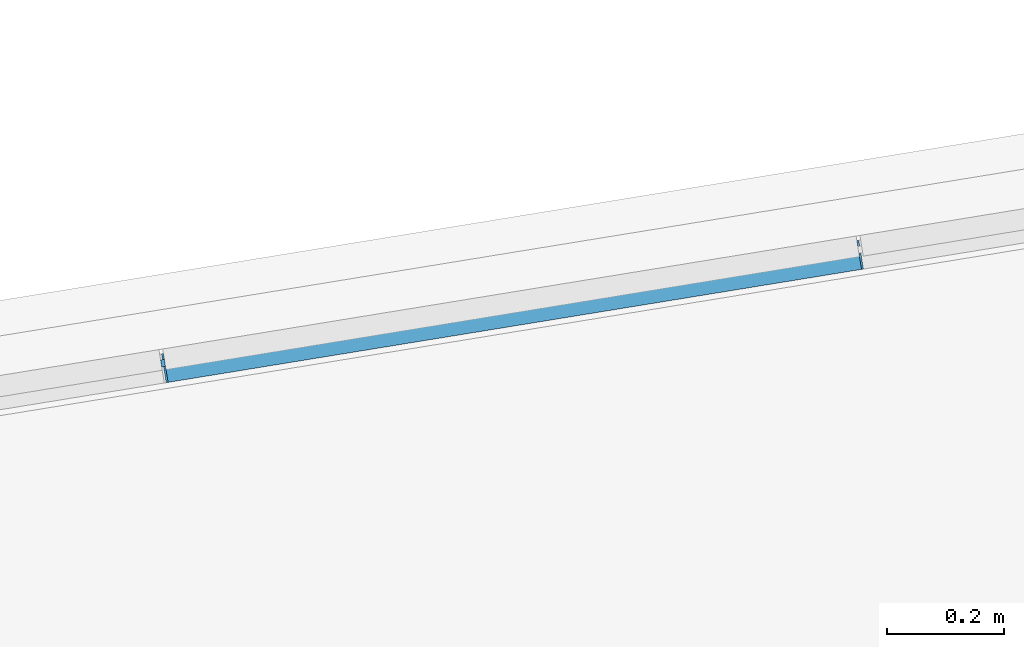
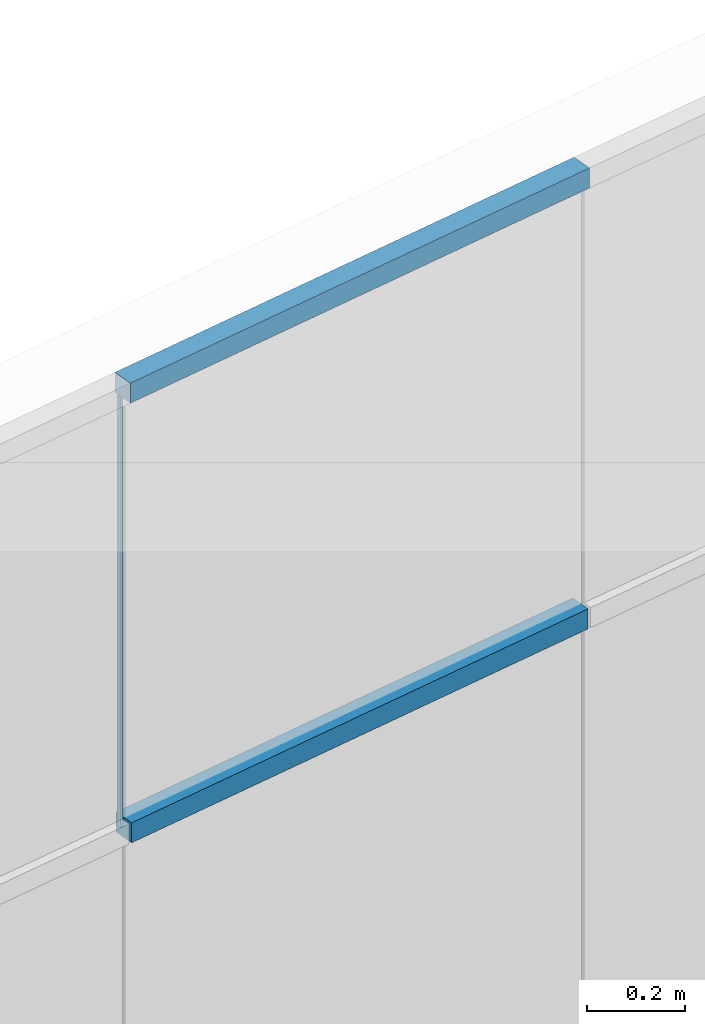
# One storey, part 5 of 13: 3 members, 1 element without a shape of its own.
"""IFC2X3 building model written with IfcOpenShell, lengths in millimetres."""

from ifc_helpers import new_model, entity, si_unit, converted_unit, derived_unit, direction, frame, origin, origin_with_axes, origin_2d_with_axis, place, context, subcontext, project, spatial, rectangle, extrude, source, transform, mapped, material, type_object, element, aggregate, save


model = new_model("IFC2X3")

# Units and contexts
plan_context = context("Plan", 3, precision=1e-05, world=origin_with_axes())
model_context = context("Model", 3, precision=0.01, world=origin(), true_north=direction((6.12323399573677e-17, 1.0)))
body_context = subcontext(model_context, "Body", "Model", "MODEL_VIEW")
ifc_project = project(units=[converted_unit("PLANEANGLEUNIT", "DEGREE", entity("IfcPositiveLengthMeasure", 0.0174532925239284), si_unit("PLANEANGLEUNIT", "RADIAN"), dimensions=[0, 0, 0, 0, 0, 0, 0]), si_unit("AREAUNIT", "SQUARE_METRE"), si_unit("LENGTHUNIT", "METRE", prefix="MILLI"), si_unit("MASSUNIT", "GRAM", prefix="KILO"), si_unit("POWERUNIT", "WATT"), si_unit("PRESSUREUNIT", "PASCAL", prefix="KILO"), si_unit("FORCEUNIT", "NEWTON", prefix="KILO"), si_unit("ELECTRICVOLTAGEUNIT", "VOLT"), si_unit("ELECTRICCURRENTUNIT", "AMPERE"), si_unit("THERMODYNAMICTEMPERATUREUNIT", "DEGREE_CELSIUS"), si_unit("TIMEUNIT", "SECOND"), si_unit("VOLUMEUNIT", "CUBIC_METRE"), derived_unit("LINEARVELOCITYUNIT", [(si_unit("LENGTHUNIT", "METRE"), 1), (si_unit("TIMEUNIT", "SECOND"), -1)]), derived_unit("VOLUMETRICFLOWRATEUNIT", [(si_unit("VOLUMEUNIT", "CUBIC_METRE"), 1), (si_unit("TIMEUNIT", "SECOND"), -1)]), derived_unit("THERMALTRANSMITTANCEUNIT", [(si_unit("POWERUNIT", "WATT"), 1), (si_unit("THERMODYNAMICTEMPERATUREUNIT", "KELVIN"), -1), (si_unit("AREAUNIT", "SQUARE_METRE"), -1)]), derived_unit("SOUNDPRESSUREUNIT", [(si_unit("PRESSUREUNIT", "PASCAL"), 1)])], contexts=[model_context, plan_context])

# Site, building, storey
site_placement = place(None, frame((-305029.896016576, -232111.759730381, 0.0), z_axis=(0.0, 0.0, 1.0), x_axis=(-0.160806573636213, 0.986985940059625, 0.0)))
site = spatial("IfcSite", under=ifc_project, at=site_placement, Name="Default", CompositionType="ELEMENT")
building_placement = place(site_placement, frame((0.0, 0.0, 0.0), z_axis=(0.0, 0.0, 1.0), x_axis=(1.0, -2.77555756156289e-17, 0.0)))
building = spatial("IfcBuilding", under=site, at=building_placement, Name="br001-a-200-1-0001", CompositionType="ELEMENT")
storey_placement = place(building_placement, frame((0.0, 0.0, 51360.0000000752), z_axis=(0.0, 0.0, 1.0), x_axis=(1.0, -2.77555756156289e-17, 0.0)))
storey = spatial("IfcBuildingStorey", under=building, at=storey_placement, Name="H01-Nivå D+0,36", CompositionType="ELEMENT", Elevation=51360.0000000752)

# Curtain wall, members
curtain_wall_type = type_object("IfcCurtainWallType", Name="Curtain Wall:A243 Innvendig glassvegg", PredefinedType="NOTDEFINED")
curtain_wall_placement = place(storey_placement, frame((0.0, 0.0, -51360.0000000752), z_axis=(0.0, 0.0, 1.0), x_axis=(1.0, -2.77555756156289e-17, 0.0)))
curtain_wall = element("IfcCurtainWall", 1, at=curtain_wall_placement, inside=storey, type_object=curtain_wall_type, Name="Curtain Wall:A243 Innvendig glassvegg", ObjectType="Curtain Wall:A243 Innvendig glassvegg")
ifc_material_1 = material(Name="Metal - Aluminium")
member_type_1 = type_object("IfcMemberType", Name="Rectangular Mullion:NSW 50x50 Add on", PredefinedType="MULLION", material=ifc_material_1)
shared_shape_1 = source(origin(), body_context, "Body", "SweptSolid", [
    extrude(rectangle(XDim=50.0, YDim=50.0, at=origin_2d_with_axis()), frame((-25.0, 15.0, -1211.6666666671), z_axis=(0.0, 0.0, 1.0), x_axis=(-1.0, 0.0, 0.0)), (0.0, 0.0, 1.0), 1211.6666666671),
])
member_1_placement = place(curtain_wall_placement, frame((1160258.59858442, -708486.378367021, 54730.0000000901), z_axis=(-2.77555756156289e-17, -1.0, 0.0), x_axis=(0.0, 0.0, 1.0)))
member_1 = element("IfcMember", 2, at=member_1_placement, type_object=member_type_1, material=ifc_material_1, Name="Rectangular Mullion:NSW 50x50 Add on", ObjectType="Rectangular Mullion:NSW 50x50 Add on", context=body_context, shape_type="MappedRepresentation", body=[
    mapped(shared_shape_1, transform((0.0, 0.0, 0.0), scale=1.0)),
])
ifc_material_2 = material(Name="T2 - Rubber")
member_type_2 = type_object("IfcMemberType", Name="Rectangular Mullion:6.66x12", PredefinedType="MULLION", material=ifc_material_2)
shared_shape_2 = source(origin(), body_context, "Body", "SweptSolid", [
    extrude(rectangle(XDim=6.6, YDim=12.0, at=origin_2d_with_axis()), frame((0.0, 6.0, -1073.3333333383), z_axis=(0.0, 0.0, 1.0), x_axis=(-1.0, 0.0, 0.0)), (0.0, 0.0, 1.0), 1073.3333333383),
])
member_2_placement = place(curtain_wall_placement, frame((1160258.59858442, -707274.711700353, 53606.6666667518), z_axis=(0.0, 0.0, -1.0), x_axis=(-2.77555756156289e-17, -1.0, 0.0)))
member_2 = element("IfcMember", 3, at=member_2_placement, type_object=member_type_2, material=ifc_material_2, Name="Rectangular Mullion:6.66x12", ObjectType="Rectangular Mullion:6.66x12", context=body_context, shape_type="MappedRepresentation", body=[
    mapped(shared_shape_2, transform((0.0, 0.0, 0.0), scale=1.0)),
])
member_type_3 = type_object("IfcMemberType", Name="Rectangular Mullion:NSW 50x50 Add on", PredefinedType="MULLION", material=ifc_material_1)
shared_shape_3 = source(origin(), body_context, "Body", "SweptSolid", [
    extrude(rectangle(XDim=50.0, YDim=50.0, at=origin_2d_with_axis()), frame((0.0, 15.0, -1205.06666666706), z_axis=(0.0, 0.0, 1.0), x_axis=(-1.0, 0.0, 0.0)), (0.0, 0.0, 1.0), 1205.0666666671),
])
member_3_placement = place(curtain_wall_placement, frame((1160258.59858442, -708483.07836702, 53606.6666667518), z_axis=(-2.77555756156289e-17, -1.0, 0.0), x_axis=(0.0, 0.0, 1.0)))
member_3 = element("IfcMember", 4, at=member_3_placement, type_object=member_type_3, material=ifc_material_1, Name="Rectangular Mullion:NSW 50x50 Add on", ObjectType="Rectangular Mullion:NSW 50x50 Add on", context=body_context, shape_type="MappedRepresentation", body=[
    mapped(shared_shape_3, transform((0.0, 0.0, 0.0), scale=1.0)),
])
aggregate(curtain_wall, [member_1, member_2, member_3])

save(model, "model.ifc")
